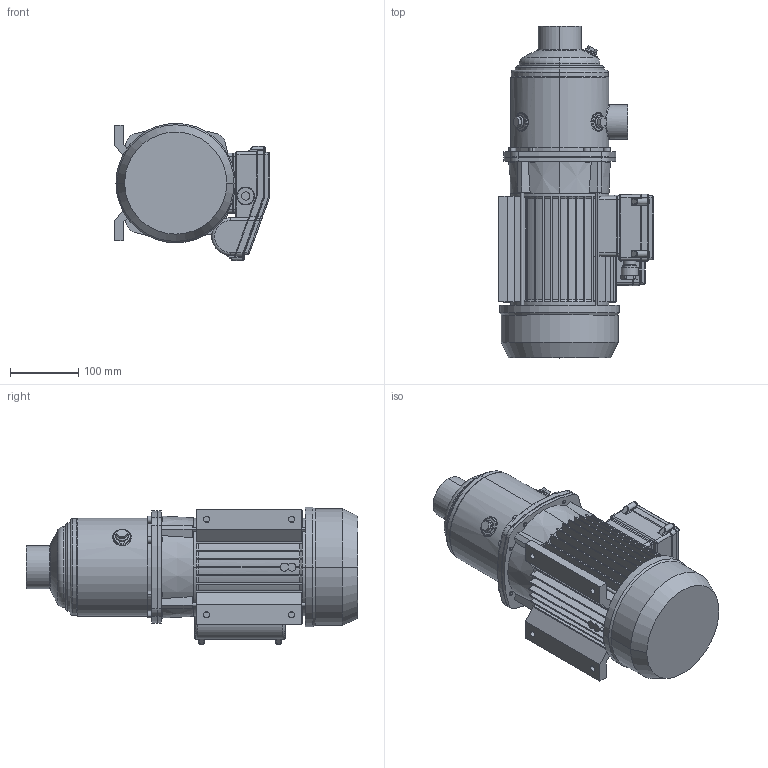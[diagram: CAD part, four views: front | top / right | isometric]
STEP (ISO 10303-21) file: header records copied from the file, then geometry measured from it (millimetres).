
FILE_DESCRIPTION((''),'2;1');
FILE_NAME('MATRIX_18-3T_2_2_M_ASM','2017-04-10T',('rosa'),('"Ebara Pumps Europe +39.444.706811"'),'PRO/ENGINEER BY PARAMETRIC TECHNOLOGY CORPORATION, 2012130','PRO/ENGINEER BY PARAMETRIC TECHNOLOGY CORPORATION, 2012130','');
FILE_SCHEMA(('AUTOMOTIVE_DESIGN { 1 0 10303 214 1 1 1 1 }'));
Length unit declared in the file: millimetre
Products named in the file (5): CORPO_POMPA_MATRIX_18-2_3; SUPPORTO_MATRIX_MEC_90; MEC_90X120_MONOFASE_ZAMP; COPRIMORSETTIERA_MEC80_90_M; MATRIX_18-3T_2_2_M_ASM
Assembly tree (4 placements, depth 2):
  MATRIX_18-3T_2_2_M_ASM
    CORPO_POMPA_MATRIX_18-2_3
    SUPPORTO_MATRIX_MEC_90
    MEC_90X120_MONOFASE_ZAMP
    COPRIMORSETTIERA_MEC80_90_M
Bounding box: 228 x 487.8 x 201.8 mm (x, y, z)
Volume: 6801530 mm3; surface area: 700311.7 mm2
Topology: 4 solids, 4 shells, 912 faces, 2172 edges, 1315 vertices
Faces by surface type: plane 401, cylinder 295, cone 103, bspline 62, torus 48, sphere 3
Entity records: 37320 total; most frequent: CARTESIAN_POINT 9110, DIRECTION 4432, ORIENTED_EDGE 4344, PRESENTATION_STYLE_ASSIGNMENT 2176, STYLED_ITEM 2176, CURVE_STYLE 2172, EDGE_CURVE 2172, AXIS2_PLACEMENT_3D 1709
